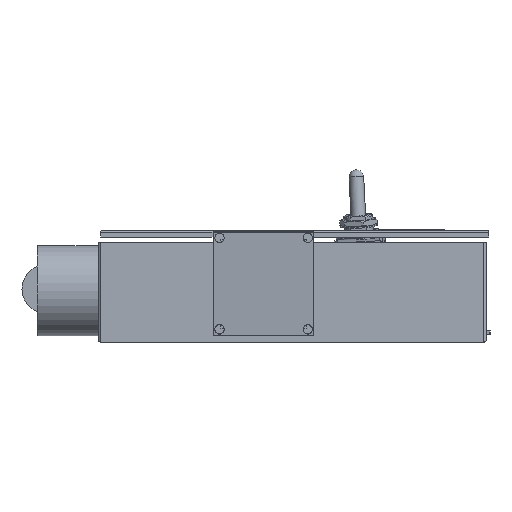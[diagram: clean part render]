
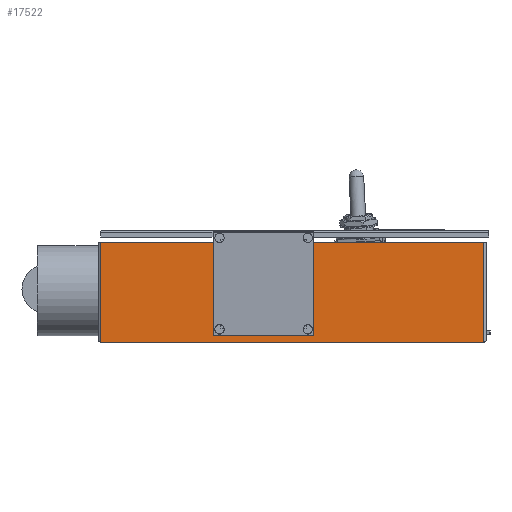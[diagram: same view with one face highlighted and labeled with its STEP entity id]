
A CAD part, left-side view. The second image highlights one B-rep face of the part: STEP entity #17522.
In plain terms, the highlighted planar face has unit normal (-1, 0, 0).
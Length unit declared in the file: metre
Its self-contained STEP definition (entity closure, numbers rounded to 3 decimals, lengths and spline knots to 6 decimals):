
#1335=LINE('',#30112,#3004);
#1339=LINE('',#30120,#3008);
#1342=LINE('',#30127,#3011);
#1346=LINE('',#30135,#3015);
#1353=LINE('',#30150,#3022);
#1355=LINE('',#30153,#3024);
#1356=LINE('',#30156,#3025);
#1357=LINE('',#30158,#3026);
#1358=LINE('',#30160,#3027);
#1359=LINE('',#30161,#3028);
#1360=LINE('',#30163,#3029);
#1361=LINE('',#30164,#3030);
#1362=LINE('',#30166,#3031);
#1363=LINE('',#30167,#3032);
#1364=LINE('',#30168,#3033);
#1365=LINE('',#30170,#3034);
#3004=VECTOR('',#24223,1.);
#3008=VECTOR('',#24227,1.);
#3011=VECTOR('',#24232,1.);
#3015=VECTOR('',#24236,1.);
#3022=VECTOR('',#24245,1.);
#3024=VECTOR('',#24249,1.);
#3025=VECTOR('',#24250,1.);
#3026=VECTOR('',#24251,1.);
#3027=VECTOR('',#24252,1.);
#3028=VECTOR('',#24253,1.);
#3029=VECTOR('',#24254,1.);
#3030=VECTOR('',#24255,1.);
#3031=VECTOR('',#24256,1.);
#3032=VECTOR('',#24257,1.);
#3033=VECTOR('',#24258,1.);
#3034=VECTOR('',#24259,1.);
#7524=ORIENTED_EDGE('',*,*,#10367,.T.);
#7525=ORIENTED_EDGE('',*,*,#10368,.T.);
#7526=ORIENTED_EDGE('',*,*,#10369,.F.);
#7527=ORIENTED_EDGE('',*,*,#10370,.T.);
#7528=ORIENTED_EDGE('',*,*,#10371,.F.);
#7529=ORIENTED_EDGE('',*,*,#10351,.T.);
#7530=ORIENTED_EDGE('',*,*,#10372,.T.);
#7531=ORIENTED_EDGE('',*,*,#10354,.T.);
#7532=ORIENTED_EDGE('',*,*,#10365,.T.);
#7533=ORIENTED_EDGE('',*,*,#10373,.F.);
#7534=ORIENTED_EDGE('',*,*,#10374,.F.);
#7535=ORIENTED_EDGE('',*,*,#10358,.T.);
#7536=ORIENTED_EDGE('',*,*,#10375,.F.);
#7537=ORIENTED_EDGE('',*,*,#10347,.T.);
#7538=ORIENTED_EDGE('',*,*,#10376,.T.);
#7539=ORIENTED_EDGE('',*,*,#10377,.F.);
#10347=EDGE_CURVE('',#12125,#12124,#1335,.T.);
#10351=EDGE_CURVE('',#12122,#12128,#1339,.T.);
#10354=EDGE_CURVE('',#12132,#12131,#1342,.T.);
#10358=EDGE_CURVE('',#12136,#12135,#1346,.T.);
#10365=EDGE_CURVE('',#12131,#12142,#1353,.T.);
#10367=EDGE_CURVE('',#12143,#12144,#1355,.T.);
#10368=EDGE_CURVE('',#12144,#12145,#1356,.F.);
#10369=EDGE_CURVE('',#12146,#12145,#1357,.T.);
#10370=EDGE_CURVE('',#12146,#12143,#1358,.T.);
#10371=EDGE_CURVE('',#12122,#12147,#1359,.T.);
#10372=EDGE_CURVE('',#12128,#12132,#1360,.T.);
#10373=EDGE_CURVE('',#12148,#12142,#1361,.T.);
#10374=EDGE_CURVE('',#12136,#12148,#1362,.T.);
#10375=EDGE_CURVE('',#12125,#12135,#1363,.T.);
#10376=EDGE_CURVE('',#12124,#12149,#1364,.T.);
#10377=EDGE_CURVE('',#12147,#12149,#1365,.T.);
#12122=VERTEX_POINT('',#30107);
#12124=VERTEX_POINT('',#30111);
#12125=VERTEX_POINT('',#30113);
#12128=VERTEX_POINT('',#30119);
#12131=VERTEX_POINT('',#30126);
#12132=VERTEX_POINT('',#30128);
#12135=VERTEX_POINT('',#30134);
#12136=VERTEX_POINT('',#30136);
#12142=VERTEX_POINT('',#30149);
#12143=VERTEX_POINT('',#30154);
#12144=VERTEX_POINT('',#30155);
#12145=VERTEX_POINT('',#30157);
#12146=VERTEX_POINT('',#30159);
#12147=VERTEX_POINT('',#30162);
#12148=VERTEX_POINT('',#30165);
#12149=VERTEX_POINT('',#30169);
#14199=EDGE_LOOP('',(#7524,#7525,#7526,#7527));
#14200=EDGE_LOOP('',(#7528,#7529,#7530,#7531,#7532,#7533,#7534,#7535,#7536,
#7537,#7538,#7539));
#15647=FACE_BOUND('',#14199,.T.);
#15648=FACE_BOUND('',#14200,.T.);
#16442=PLANE('',#20069);
#17522=ADVANCED_FACE('',(#15647,#15648),#16442,.F.);
#20069=AXIS2_PLACEMENT_3D('',#30152,#24247,#24248);
#24223=DIRECTION('',(0.,1.,0.));
#24227=DIRECTION('',(0.,1.,0.));
#24232=DIRECTION('',(0.,-1.,0.));
#24236=DIRECTION('',(0.,-1.,0.));
#24245=DIRECTION('',(0.,0.,-1.));
#24247=DIRECTION('',(1.,0.,0.));
#24248=DIRECTION('',(0.,0.,-1.));
#24249=DIRECTION('',(0.,-1.,0.));
#24250=DIRECTION('',(0.,0.,-1.));
#24251=DIRECTION('',(0.,-1.,0.));
#24252=DIRECTION('',(0.,0.,-1.));
#24253=DIRECTION('',(0.,0.,1.));
#24254=DIRECTION('',(0.,0.,-1.));
#24255=DIRECTION('',(0.,-1.,0.));
#24256=DIRECTION('',(0.,0.,-1.));
#24257=DIRECTION('',(0.,0.,-1.));
#24258=DIRECTION('',(0.,0.,1.));
#24259=DIRECTION('',(0.,1.,0.));
#30107=CARTESIAN_POINT('',(-0.043277,0.039957,0.025204));
#30111=CARTESIAN_POINT('',(-0.043277,0.054957,0.025204));
#30112=CARTESIAN_POINT('',(-0.043277,0.047457,0.025204));
#30113=CARTESIAN_POINT('',(-0.043277,0.051914,0.025204));
#30119=CARTESIAN_POINT('',(-0.043277,0.041914,0.025204));
#30120=CARTESIAN_POINT('',(-0.043277,0.047457,0.025204));
#30126=CARTESIAN_POINT('',(-0.043277,0.039957,0.015204));
#30127=CARTESIAN_POINT('',(-0.043277,0.047457,0.015204));
#30128=CARTESIAN_POINT('',(-0.043277,0.041914,0.015204));
#30134=CARTESIAN_POINT('',(-0.043277,0.051914,0.015204));
#30135=CARTESIAN_POINT('',(-0.043277,0.047457,0.015204));
#30136=CARTESIAN_POINT('',(-0.043277,0.054957,0.015204));
#30149=CARTESIAN_POINT('',(-0.043277,0.039957,0.012204));
#30150=CARTESIAN_POINT('',(-0.043277,0.039957,0.013704));
#30152=CARTESIAN_POINT('',(-0.043277,0.0348,0.04));
#30153=CARTESIAN_POINT('',(-0.043277,0.0348,-0.001));
#30154=CARTESIAN_POINT('',(-0.043277,0.1133,-0.001));
#30155=CARTESIAN_POINT('',(-0.043277,-0.0437,-0.001));
#30156=CARTESIAN_POINT('',(-0.043277,-0.0437,0.04));
#30157=CARTESIAN_POINT('',(-0.043277,-0.0437,0.04));
#30158=CARTESIAN_POINT('',(-0.043277,0.0348,0.04));
#30159=CARTESIAN_POINT('',(-0.043277,0.1133,0.04));
#30160=CARTESIAN_POINT('',(-0.043277,0.1133,-0.001));
#30161=CARTESIAN_POINT('',(-0.043277,0.039957,0.026704));
#30162=CARTESIAN_POINT('',(-0.043277,0.039957,0.028204));
#30163=CARTESIAN_POINT('',(-0.043277,0.041914,0.020204));
#30164=CARTESIAN_POINT('',(-0.043277,0.047457,0.012204));
#30165=CARTESIAN_POINT('',(-0.043277,0.054957,0.012204));
#30166=CARTESIAN_POINT('',(-0.043277,0.054957,0.013704));
#30167=CARTESIAN_POINT('',(-0.043277,0.051914,0.020204));
#30168=CARTESIAN_POINT('',(-0.043277,0.054957,0.026704));
#30169=CARTESIAN_POINT('',(-0.043277,0.054957,0.028204));
#30170=CARTESIAN_POINT('',(-0.043277,0.047457,0.028204));
